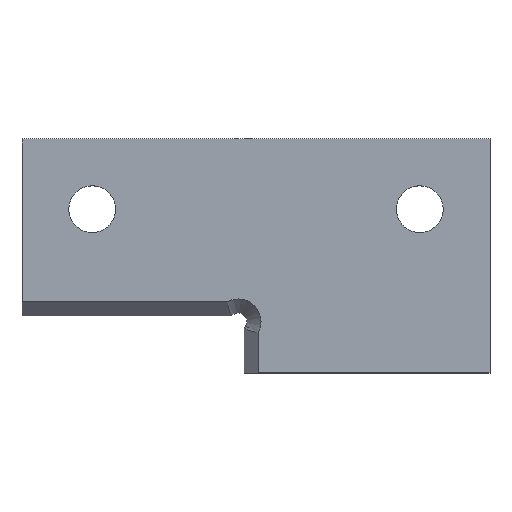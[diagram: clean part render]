
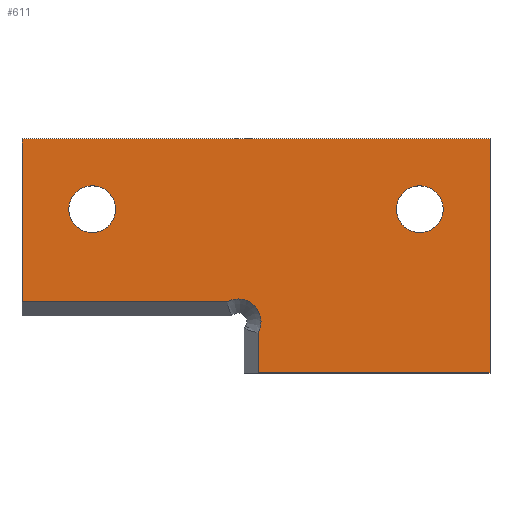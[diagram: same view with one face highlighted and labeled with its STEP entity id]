
A CAD part, top view. The second image highlights one B-rep face of the part: STEP entity #611.
In plain terms, the highlighted planar face has unit normal (0, 0, 1).
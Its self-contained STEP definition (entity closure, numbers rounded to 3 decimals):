
#227=CARTESIAN_POINT('Vertex',(-20.,60.,1.575)) ;
#230=CARTESIAN_POINT('Line Origine',(-20.,50.,1.575)) ;
#234=CARTESIAN_POINT('Vertex',(-20.,40.,1.575)) ;
#326=CARTESIAN_POINT('Line Origine',(-40.,60.,1.575)) ;
#330=CARTESIAN_POINT('Vertex',(-60.,60.,1.575)) ;
#354=CARTESIAN_POINT('Vertex',(-24.,54.,1.575)) ;
#361=CARTESIAN_POINT('Vertex',(-28.,54.,1.575)) ;
#364=CARTESIAN_POINT('Axis2P3D Location',(-26.,54.,1.575)) ;
#376=CARTESIAN_POINT('Axis2P3D Location',(-26.,54.,1.575)) ;
#397=CARTESIAN_POINT('Vertex',(-52.,54.,1.575)) ;
#404=CARTESIAN_POINT('Vertex',(-56.,54.,1.575)) ;
#407=CARTESIAN_POINT('Axis2P3D Location',(-54.,54.,1.575)) ;
#419=CARTESIAN_POINT('Axis2P3D Location',(-54.,54.,1.575)) ;
#514=CARTESIAN_POINT('Vertex',(-39.82,40.,1.575)) ;
#517=CARTESIAN_POINT('Line Origine',(-29.91,40.,1.575)) ;
#539=CARTESIAN_POINT('Vertex',(-60.,46.08,1.575)) ;
#544=CARTESIAN_POINT('Line Origine',(-60.,53.04,1.575)) ;
#562=CARTESIAN_POINT('Axis2P3D Location',(0.,0.,1.575)) ;
#567=CARTESIAN_POINT('Line Origine',(-51.238,46.08,1.575)) ;
#571=CARTESIAN_POINT('Vertex',(-42.475,46.08,1.575)) ;
#574=CARTESIAN_POINT('Axis2P3D Location',(-41.52,44.38,1.575)) ;
#578=CARTESIAN_POINT('Vertex',(-39.809,43.445,1.575)) ;
#581=CARTESIAN_POINT('Axis2P3D Location',(-41.52,44.38,1.575)) ;
#585=CARTESIAN_POINT('Vertex',(-39.82,43.425,1.575)) ;
#588=CARTESIAN_POINT('Line Origine',(-39.82,41.712,1.575)) ;
#231=DIRECTION('Vector Direction',(0.,-1.,0.)) ;
#327=DIRECTION('Vector Direction',(1.,0.,0.)) ;
#365=DIRECTION('Axis2P3D Direction',(0.,0.,-1.)) ;
#377=DIRECTION('Axis2P3D Direction',(0.,0.,-1.)) ;
#408=DIRECTION('Axis2P3D Direction',(0.,0.,-1.)) ;
#420=DIRECTION('Axis2P3D Direction',(0.,0.,-1.)) ;
#518=DIRECTION('Vector Direction',(-1.,0.,0.)) ;
#545=DIRECTION('Vector Direction',(0.,1.,0.)) ;
#563=DIRECTION('Axis2P3D Direction',(0.,0.,-1.)) ;
#564=DIRECTION('Axis2P3D XDirection',(1.,0.,0.)) ;
#568=DIRECTION('Vector Direction',(1.,0.,0.)) ;
#575=DIRECTION('Axis2P3D Direction',(0.,0.,-1.)) ;
#582=DIRECTION('Axis2P3D Direction',(0.,0.,-1.)) ;
#589=DIRECTION('Vector Direction',(0.,-1.,0.)) ;
#366=AXIS2_PLACEMENT_3D('Circle Axis2P3D',#364,#365,$) ;
#378=AXIS2_PLACEMENT_3D('Circle Axis2P3D',#376,#377,$) ;
#409=AXIS2_PLACEMENT_3D('Circle Axis2P3D',#407,#408,$) ;
#421=AXIS2_PLACEMENT_3D('Circle Axis2P3D',#419,#420,$) ;
#565=AXIS2_PLACEMENT_3D('Plane Axis2P3D',#562,#563,#564) ;
#576=AXIS2_PLACEMENT_3D('Circle Axis2P3D',#574,#575,$) ;
#583=AXIS2_PLACEMENT_3D('Circle Axis2P3D',#581,#582,$) ;
#594=ORIENTED_EDGE('',*,*,#573,.F.) ;
#595=ORIENTED_EDGE('',*,*,#580,.F.) ;
#596=ORIENTED_EDGE('',*,*,#587,.F.) ;
#597=ORIENTED_EDGE('',*,*,#592,.F.) ;
#598=ORIENTED_EDGE('',*,*,#521,.F.) ;
#599=ORIENTED_EDGE('',*,*,#236,.F.) ;
#600=ORIENTED_EDGE('',*,*,#332,.F.) ;
#601=ORIENTED_EDGE('',*,*,#548,.F.) ;
#604=ORIENTED_EDGE('',*,*,#411,.T.) ;
#605=ORIENTED_EDGE('',*,*,#423,.T.) ;
#608=ORIENTED_EDGE('',*,*,#368,.T.) ;
#609=ORIENTED_EDGE('',*,*,#380,.T.) ;
#606=FACE_BOUND('',#603,.T.) ;
#610=FACE_BOUND('',#607,.T.) ;
#232=VECTOR('Line Direction',#231,1.) ;
#328=VECTOR('Line Direction',#327,1.) ;
#519=VECTOR('Line Direction',#518,1.) ;
#546=VECTOR('Line Direction',#545,1.) ;
#569=VECTOR('Line Direction',#568,1.) ;
#590=VECTOR('Line Direction',#589,1.) ;
#611=ADVANCED_FACE('Corps principal',(#602,#606,#610),#566,.F.) ;
#367=CIRCLE('generated circle',#366,2.) ;
#379=CIRCLE('generated circle',#378,2.) ;
#410=CIRCLE('generated circle',#409,2.) ;
#422=CIRCLE('generated circle',#421,2.) ;
#577=CIRCLE('generated circle',#576,1.95) ;
#584=CIRCLE('generated circle',#583,1.95) ;
#236=EDGE_CURVE('',#228,#235,#233,.T.) ;
#332=EDGE_CURVE('',#331,#228,#329,.T.) ;
#368=EDGE_CURVE('',#355,#362,#367,.T.) ;
#380=EDGE_CURVE('',#362,#355,#379,.T.) ;
#411=EDGE_CURVE('',#398,#405,#410,.T.) ;
#423=EDGE_CURVE('',#405,#398,#422,.T.) ;
#521=EDGE_CURVE('',#235,#515,#520,.T.) ;
#548=EDGE_CURVE('',#540,#331,#547,.T.) ;
#573=EDGE_CURVE('',#572,#540,#570,.F.) ;
#580=EDGE_CURVE('',#579,#572,#577,.F.) ;
#587=EDGE_CURVE('',#586,#579,#584,.F.) ;
#592=EDGE_CURVE('',#515,#586,#591,.F.) ;
#593=EDGE_LOOP('',(#594,#595,#596,#597,#598,#599,#600,#601)) ;
#603=EDGE_LOOP('',(#604,#605)) ;
#607=EDGE_LOOP('',(#608,#609)) ;
#602=FACE_OUTER_BOUND('',#593,.T.) ;
#233=LINE('Line',#230,#232) ;
#329=LINE('Line',#326,#328) ;
#520=LINE('Line',#517,#519) ;
#547=LINE('Line',#544,#546) ;
#570=LINE('Line',#567,#569) ;
#591=LINE('Line',#588,#590) ;
#566=PLANE('Plane',#565) ;
#228=VERTEX_POINT('',#227) ;
#235=VERTEX_POINT('',#234) ;
#331=VERTEX_POINT('',#330) ;
#355=VERTEX_POINT('',#354) ;
#362=VERTEX_POINT('',#361) ;
#398=VERTEX_POINT('',#397) ;
#405=VERTEX_POINT('',#404) ;
#515=VERTEX_POINT('',#514) ;
#540=VERTEX_POINT('',#539) ;
#572=VERTEX_POINT('',#571) ;
#579=VERTEX_POINT('',#578) ;
#586=VERTEX_POINT('',#585) ;
